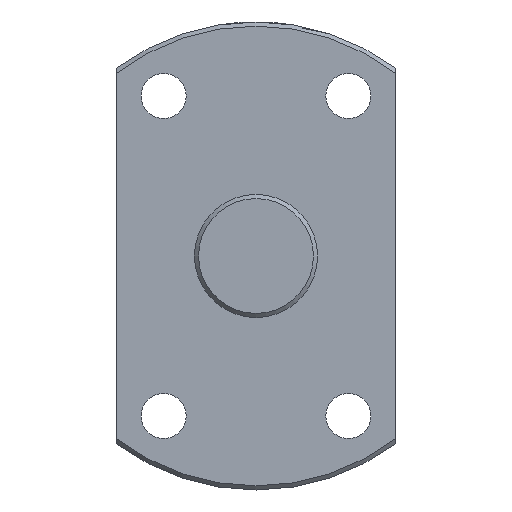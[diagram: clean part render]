
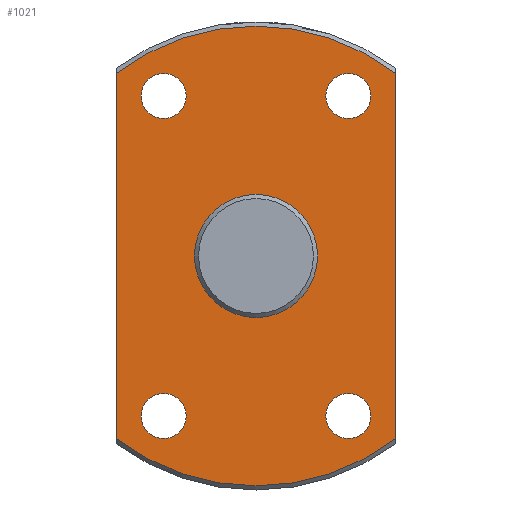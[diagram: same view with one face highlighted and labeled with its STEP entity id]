
A CAD part, left-side view. The second image highlights one B-rep face of the part: STEP entity #1021.
In plain terms, the highlighted planar face has unit normal (-1, 0, 0).
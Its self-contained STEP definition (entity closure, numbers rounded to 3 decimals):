
#315=CARTESIAN_POINT('',(266.164,-17.,22.249));
#316=VERTEX_POINT('',#315);
#341=CARTESIAN_POINT('',(266.164,17.,22.249));
#342=VERTEX_POINT('',#341);
#356=CARTESIAN_POINT('',(266.164,0.0,0.0));
#357=DIRECTION('',(1.0,0.0,0.0));
#358=DIRECTION('',(0.0,1.0,0.0));
#359=AXIS2_PLACEMENT_3D('',#356,#357,#358);
#360=CIRCLE('',#359,28.);
#361=EDGE_CURVE('',#342,#316,#360,.T.);
#484=CARTESIAN_POINT('',(266.164,-17.,-22.249));
#485=VERTEX_POINT('',#484);
#486=CARTESIAN_POINT('',(266.164,-17.,22.249));
#487=DIRECTION('',(0.0,0.0,-1.0));
#488=VECTOR('',#487,44.497);
#489=LINE('',#486,#488);
#490=EDGE_CURVE('',#316,#485,#489,.T.);
#566=CARTESIAN_POINT('',(266.164,17.,-22.249));
#567=VERTEX_POINT('',#566);
#591=CARTESIAN_POINT('',(266.164,0.0,0.0));
#592=DIRECTION('',(1.0,0.0,0.0));
#593=DIRECTION('',(0.0,1.0,0.0));
#594=AXIS2_PLACEMENT_3D('',#591,#592,#593);
#595=CIRCLE('',#594,28.);
#596=EDGE_CURVE('',#485,#567,#595,.T.);
#677=CARTESIAN_POINT('',(266.164,17.,-22.249));
#678=DIRECTION('',(0.0,0.0,1.0));
#679=VECTOR('',#678,44.497);
#680=LINE('',#677,#679);
#681=EDGE_CURVE('',#567,#342,#680,.T.);
#903=CARTESIAN_POINT('',(266.164,7.5,0.));
#904=VERTEX_POINT('',#903);
#905=CARTESIAN_POINT('',(266.164,0.0,0.0));
#906=DIRECTION('',(1.0,0.0,0.0));
#907=DIRECTION('',(0.0,-1.0,0.0));
#908=AXIS2_PLACEMENT_3D('',#905,#906,#907);
#909=CIRCLE('',#908,7.5);
#910=EDGE_CURVE('',#904,#904,#909,.T.);
#923=CARTESIAN_POINT('',(266.164,14.,-19.486));
#924=VERTEX_POINT('',#923);
#925=CARTESIAN_POINT('',(266.164,11.25,-19.486));
#926=DIRECTION('',(1.0,0.0,0.0));
#927=DIRECTION('',(0.0,1.0,0.0));
#928=AXIS2_PLACEMENT_3D('',#925,#926,#927);
#929=CIRCLE('',#928,2.75);
#930=EDGE_CURVE('',#924,#924,#929,.T.);
#943=CARTESIAN_POINT('',(266.164,-8.5,19.486));
#944=VERTEX_POINT('',#943);
#945=CARTESIAN_POINT('',(266.164,-11.25,19.486));
#946=DIRECTION('',(1.0,0.0,0.0));
#947=DIRECTION('',(0.0,1.0,0.0));
#948=AXIS2_PLACEMENT_3D('',#945,#946,#947);
#949=CIRCLE('',#948,2.75);
#950=EDGE_CURVE('',#944,#944,#949,.T.);
#963=CARTESIAN_POINT('',(266.164,14.,19.486));
#964=VERTEX_POINT('',#963);
#965=CARTESIAN_POINT('',(266.164,11.25,19.486));
#966=DIRECTION('',(1.0,0.0,0.0));
#967=DIRECTION('',(0.0,1.0,0.0));
#968=AXIS2_PLACEMENT_3D('',#965,#966,#967);
#969=CIRCLE('',#968,2.75);
#970=EDGE_CURVE('',#964,#964,#969,.T.);
#983=CARTESIAN_POINT('',(266.164,-8.5,-19.486));
#984=VERTEX_POINT('',#983);
#985=CARTESIAN_POINT('',(266.164,-11.25,-19.486));
#986=DIRECTION('',(1.0,0.0,0.0));
#987=DIRECTION('',(0.0,1.0,0.0));
#988=AXIS2_PLACEMENT_3D('',#985,#986,#987);
#989=CIRCLE('',#988,2.75);
#990=EDGE_CURVE('',#984,#984,#989,.T.);
#995=CARTESIAN_POINT('',(266.164,0.0,0.0));
#996=DIRECTION('',(-1.0,0.0,0.0));
#997=DIRECTION('',(0.0,0.0,1.0));
#998=AXIS2_PLACEMENT_3D('',#995,#996,#997);
#999=PLANE('',#998);
#1000=ORIENTED_EDGE('',*,*,#361,.F.);
#1001=ORIENTED_EDGE('',*,*,#681,.F.);
#1002=ORIENTED_EDGE('',*,*,#596,.F.);
#1003=ORIENTED_EDGE('',*,*,#490,.F.);
#1004=EDGE_LOOP('',(#1000,#1001,#1002,#1003));
#1005=FACE_OUTER_BOUND('',#1004,.T.);
#1006=ORIENTED_EDGE('',*,*,#910,.T.);
#1007=EDGE_LOOP('',(#1006));
#1008=FACE_BOUND('',#1007,.T.);
#1009=ORIENTED_EDGE('',*,*,#930,.T.);
#1010=EDGE_LOOP('',(#1009));
#1011=FACE_BOUND('',#1010,.T.);
#1012=ORIENTED_EDGE('',*,*,#950,.T.);
#1013=EDGE_LOOP('',(#1012));
#1014=FACE_BOUND('',#1013,.T.);
#1015=ORIENTED_EDGE('',*,*,#970,.T.);
#1016=EDGE_LOOP('',(#1015));
#1017=FACE_BOUND('',#1016,.T.);
#1018=ORIENTED_EDGE('',*,*,#990,.T.);
#1019=EDGE_LOOP('',(#1018));
#1020=FACE_BOUND('',#1019,.T.);
#1021=ADVANCED_FACE('',(#1005,#1008,#1011,#1014,#1017,#1020),#999,.T.);
